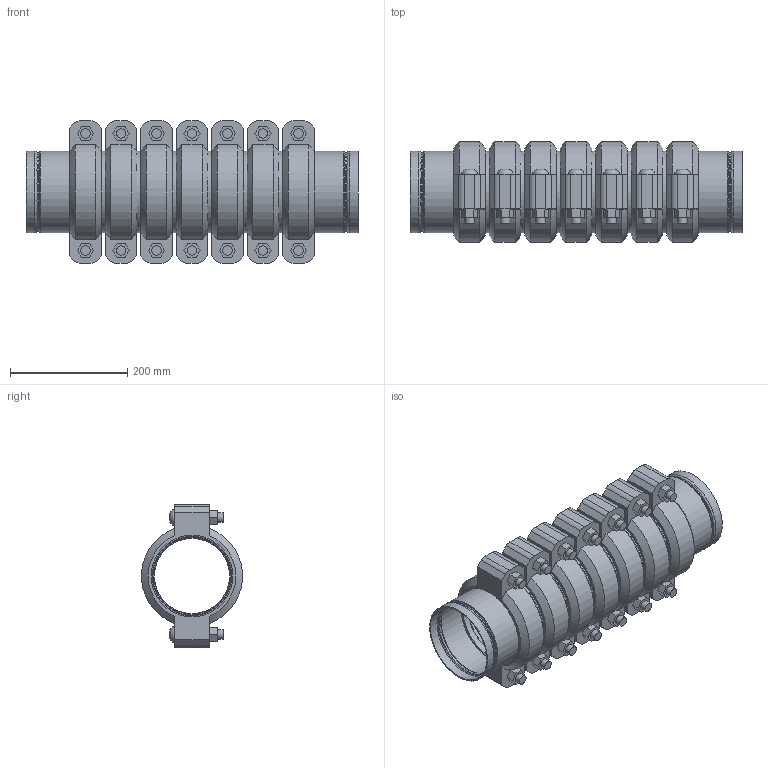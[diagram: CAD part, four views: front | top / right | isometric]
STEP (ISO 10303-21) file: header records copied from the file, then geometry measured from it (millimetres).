
FILE_DESCRIPTION(/* description */ ('VIC STRENGTHIN 100 EXPANSION JOINT 7 COUPLINGS COMPRESSED STYLE E155 (ST1)','CAx-IF Rec.Pracs.---Representation and Presentation of Product Manufacturing Information (PMI)---4.0---2014-10-13'),/* implementation_level */ '2;1');
FILE_NAME(/* name */ 'C:\Users\Vjadhav\AppData\Roaming\Autodesk\ApplicationPlugins\Victaulic.Temp\A926\Victaulic_SS-StrengThin 100_Expansion Joint_Compressed_7 Couplings_Style E155 (ST1)_05.0 (139.7) (125).stp',/* time_stamp */ '2021-07-23T12:35:07+05:00',/* author */ ('kkamble'),/* organization */ ('Victaulic'),/* preprocessor_version */ 'ST-DEVELOPER v17.2',/* originating_system */ 'Autodesk Inventor 2019',/* authorisation */ '');
FILE_SCHEMA (('AP242_MANAGED_MODEL_BASED_3D_ENGINEERING_MIM_LF { 1 0 10303 442 1 1 4 }'));
Length unit declared in the file: inch
Products named in the file (4): E155-05.0 (139.7); E494G-05.0 (139.7); Nipple-05.0 (139.7); 075-05.0 (139.7)
Assembly tree (15 placements, depth 2):
  E155-05.0 (139.7)
    E494G-05.0 (139.7)  x2
    Nipple-05.0 (139.7)  x6
    075-05.0 (139.7)  x7
Bounding box: 566.67 x 172.14 x 243.59 mm (x, y, z)
Volume: 5383803.5 mm3; surface area: 1211475.7 mm2
Topology: 15 solids, 29 shells, 511 faces, 1291 edges, 912 vertices
Faces by surface type: plane 286, cylinder 147, torus 32, cone 32, bspline 14
Full cylindrical faces by diameter (mm): 15.875 x28, 17.424 x14, 128.194 x6, 130.505 x2, 131.47 x2, 134.518 x2, 135.484 x14, 135.687 x6, 139.7 x31
Entity records: 3679 total; most frequent: DIRECTION 655, CARTESIAN_POINT 647, ORIENTED_EDGE 536, AXIS2_PLACEMENT_3D 279, EDGE_CURVE 268, VERTEX_POINT 193, CIRCLE 163, EDGE_LOOP 123
